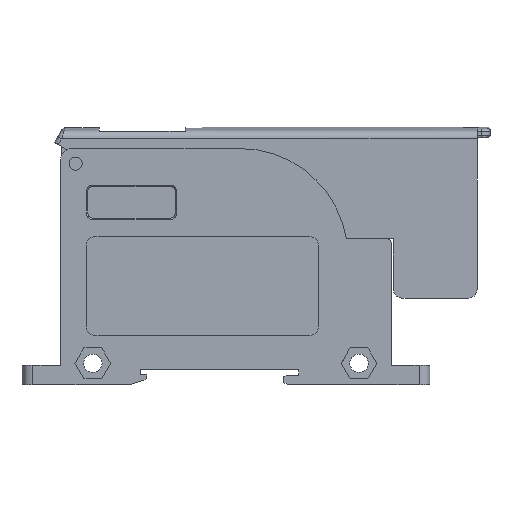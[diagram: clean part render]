
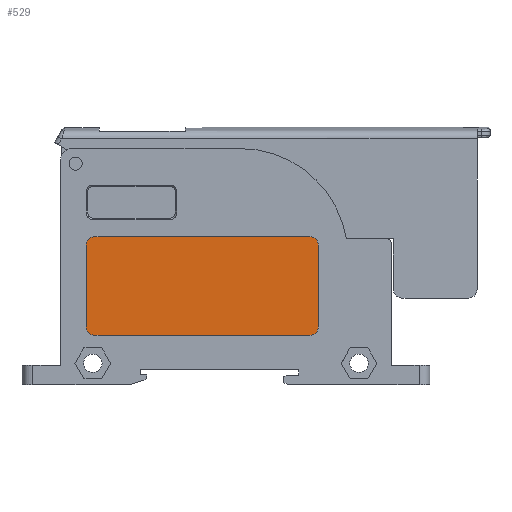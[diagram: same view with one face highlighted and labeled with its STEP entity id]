
A CAD part, left-side view. The second image highlights one B-rep face of the part: STEP entity #529.
In plain terms, the highlighted planar face has unit normal (-1, 0, 0).
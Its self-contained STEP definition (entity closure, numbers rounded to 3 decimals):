
#345=CIRCLE('',#6227,2.);
#346=CIRCLE('',#6228,2.);
#347=CIRCLE('',#6229,2.);
#348=CIRCLE('',#6230,2.);
#529=ADVANCED_FACE('',(#1046),#829,.T.);
#829=PLANE('',#6231);
#1046=FACE_OUTER_BOUND('',#1337,.T.);
#1337=EDGE_LOOP('',(#1767,#1768,#1769,#1770,#1771,#1772,#1773,#1774));
#1767=ORIENTED_EDGE('',*,*,#4080,.T.);
#1768=ORIENTED_EDGE('',*,*,#4081,.T.);
#1769=ORIENTED_EDGE('',*,*,#4082,.T.);
#1770=ORIENTED_EDGE('',*,*,#4083,.T.);
#1771=ORIENTED_EDGE('',*,*,#4084,.F.);
#1772=ORIENTED_EDGE('',*,*,#4085,.T.);
#1773=ORIENTED_EDGE('',*,*,#4086,.F.);
#1774=ORIENTED_EDGE('',*,*,#4087,.T.);
#3475=VERTEX_POINT('',#8543);
#3476=VERTEX_POINT('',#8544);
#3477=VERTEX_POINT('',#8546);
#3478=VERTEX_POINT('',#8548);
#3479=VERTEX_POINT('',#8550);
#3480=VERTEX_POINT('',#8552);
#3481=VERTEX_POINT('',#8554);
#3482=VERTEX_POINT('',#8556);
#4080=EDGE_CURVE('',#3475,#3476,#4932,.T.);
#4081=EDGE_CURVE('',#3476,#3477,#345,.T.);
#4082=EDGE_CURVE('',#3477,#3478,#4933,.T.);
#4083=EDGE_CURVE('',#3478,#3479,#346,.T.);
#4084=EDGE_CURVE('',#3480,#3479,#4934,.T.);
#4085=EDGE_CURVE('',#3480,#3481,#347,.T.);
#4086=EDGE_CURVE('',#3482,#3481,#4935,.T.);
#4087=EDGE_CURVE('',#3482,#3475,#348,.T.);
#4932=LINE('',#8542,#5580);
#4933=LINE('',#8547,#5581);
#4934=LINE('',#8551,#5582);
#4935=LINE('',#8555,#5583);
#5580=VECTOR('',#6815,1.);
#5581=VECTOR('',#6818,1.);
#5582=VECTOR('',#6821,1.);
#5583=VECTOR('',#6824,1.);
#6227=AXIS2_PLACEMENT_3D('',#8545,#6816,#6817);
#6228=AXIS2_PLACEMENT_3D('',#8549,#6819,#6820);
#6229=AXIS2_PLACEMENT_3D('',#8553,#6822,#6823);
#6230=AXIS2_PLACEMENT_3D('',#8557,#6825,#6826);
#6231=AXIS2_PLACEMENT_3D('',#8558,#6827,#6828);
#6815=DIRECTION('',(0.,1.,0.));
#6816=DIRECTION('',(-1.,0.,0.));
#6817=DIRECTION('',(0.,0.,1.));
#6818=DIRECTION('',(0.,0.,-1.));
#6819=DIRECTION('',(-1.,0.,0.));
#6820=DIRECTION('',(0.,0.,1.));
#6821=DIRECTION('',(0.,1.,0.));
#6822=DIRECTION('',(-1.,0.,0.));
#6823=DIRECTION('',(0.,0.,1.));
#6824=DIRECTION('',(0.,0.,-1.));
#6825=DIRECTION('',(-1.,0.,0.));
#6826=DIRECTION('',(0.,0.,1.));
#6827=DIRECTION('',(-1.,0.,0.));
#6828=DIRECTION('',(0.,0.,-1.));
#8542=CARTESIAN_POINT('',(-124.55,38.,20.05));
#8543=CARTESIAN_POINT('',(-124.55,12.5,20.05));
#8544=CARTESIAN_POINT('',(-124.55,62.5,20.05));
#8545=CARTESIAN_POINT('',(-124.55,62.5,18.05));
#8546=CARTESIAN_POINT('',(-124.55,64.5,18.05));
#8547=CARTESIAN_POINT('',(-124.55,64.5,0.));
#8548=CARTESIAN_POINT('',(-124.55,64.5,-0.95));
#8549=CARTESIAN_POINT('',(-124.55,62.5,-0.95));
#8550=CARTESIAN_POINT('',(-124.55,62.5,-2.95));
#8551=CARTESIAN_POINT('',(-124.55,38.,-2.95));
#8552=CARTESIAN_POINT('',(-124.55,12.5,-2.95));
#8553=CARTESIAN_POINT('',(-124.55,12.5,-0.95));
#8554=CARTESIAN_POINT('',(-124.55,10.5,-0.95));
#8555=CARTESIAN_POINT('',(-124.55,10.5,0.));
#8556=CARTESIAN_POINT('',(-124.55,10.5,18.05));
#8557=CARTESIAN_POINT('',(-124.55,12.5,18.05));
#8558=CARTESIAN_POINT('',(-124.55,38.,0.));
